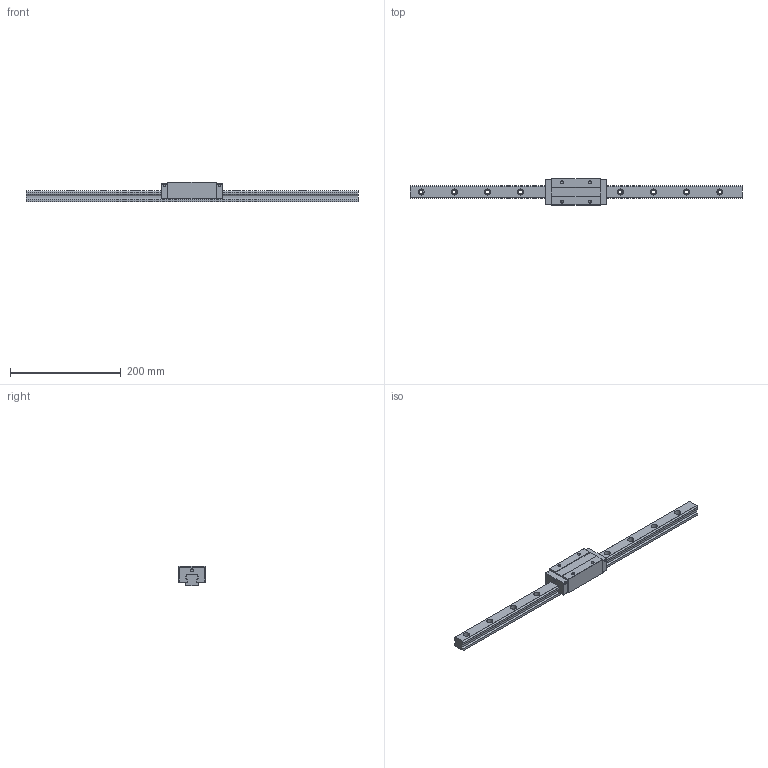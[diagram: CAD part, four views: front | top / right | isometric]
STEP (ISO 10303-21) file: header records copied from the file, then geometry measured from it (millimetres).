
FILE_DESCRIPTION (( 'STEP AP203' ), '1' );
FILE_NAME ('TRC25VE-XN.STEP', '2024-06-13T01:04:36', ( '' ), ( '' ), 'SwSTEP 2.0', 'SolidWorks 2022', '' );
FILE_SCHEMA (( 'CONFIG_CONTROL_DESIGN' ));
Length unit declared in the file: millimetre
Products named in the file (1): TRC25VE-XN
Bounding box: 600 x 48 x 36 mm (x, y, z)
Volume: 355335.6 mm3; surface area: 82348.5 mm2
Topology: 2 solids, 2 shells, 200 faces, 520 edges, 336 vertices
Faces by surface type: cylinder 96, plane 88, cone 16
Entity records: 6223 total; most frequent: DIRECTION 1114, CARTESIAN_POINT 1049, ORIENTED_EDGE 1024, EDGE_CURVE 512, AXIS2_PLACEMENT_3D 401, VERTEX_POINT 336, LINE 312, VECTOR 312
